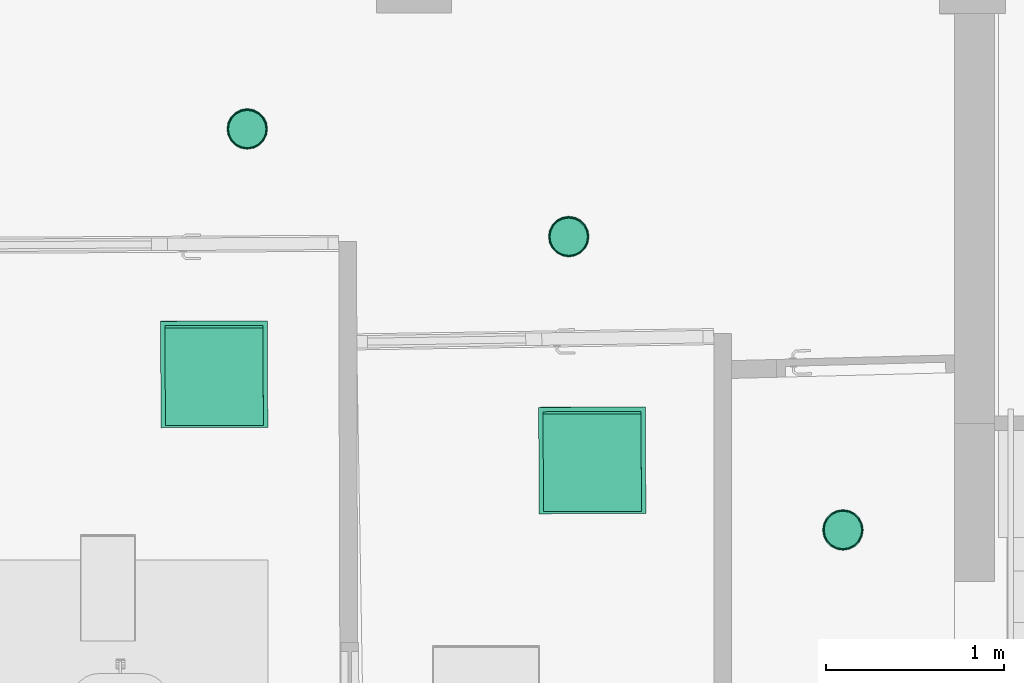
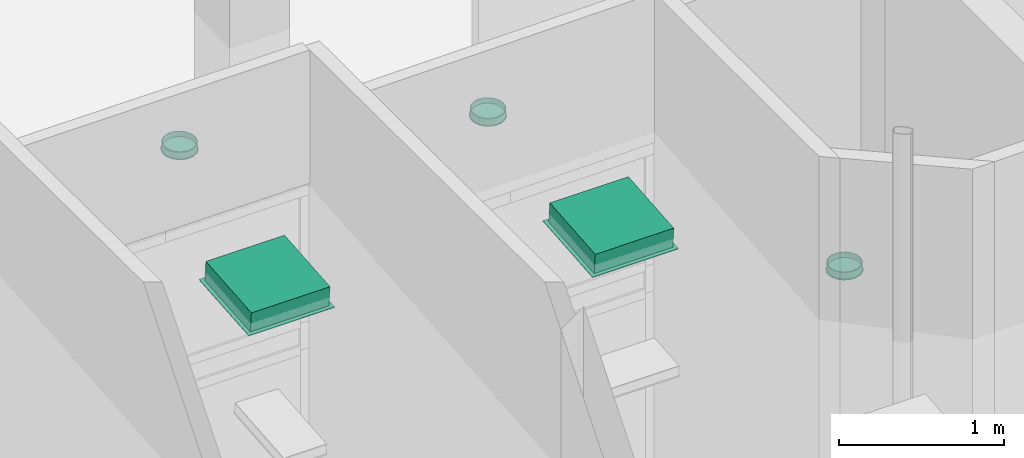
# One storey, part 72 of 128: 3 flow terminals, 2 flow controllers.
"""IFC2X3 building model written with IfcOpenShell, lengths in metres."""

from ifc_helpers import new_model, entity, si_unit, converted_unit, derived_unit, direction, frame, origin, place, context, subcontext, project, spatial, faceted_brep, source, transform, mapped, material, material_list, type_object, type_shapes, element, save


model = new_model("IFC2X3")

# Units and contexts
model_context = context("Model", 3, precision=1e-05, world=origin(), true_north=direction((6.123031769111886e-17, 1.0)))
body_context = subcontext(model_context, "Body", "Model", "MODEL_VIEW")
ifc_project = project(units=[si_unit("LENGTHUNIT", "METRE"), si_unit("AREAUNIT", "SQUARE_METRE"), converted_unit("PLANEANGLEUNIT", "DEGREE", entity("IfcPlaneAngleMeasure", 0.017453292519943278), si_unit("PLANEANGLEUNIT", "RADIAN"), dimensions=[0, 0, 0, 0, 0, 0, 0]), derived_unit("THERMALTRANSMITTANCEUNIT", [(si_unit("MASSUNIT", "GRAM", prefix="KILO"), 1), (si_unit("THERMODYNAMICTEMPERATUREUNIT", "KELVIN"), -1), (si_unit("TIMEUNIT", "SECOND"), -3)])], contexts=[model_context])

# Site, building, storey
site_placement = place(None, origin())
site = spatial("IfcSite", under=ifc_project, at=site_placement, Name="Default", CompositionType="ELEMENT")
building_placement = place(site_placement, origin())
building = spatial("IfcBuilding", under=site, at=building_placement, CompositionType="ELEMENT")
storey_placement = place(building_placement, origin())
storey = spatial("IfcBuildingStorey", under=building, at=storey_placement, Name="00_RDC CAF", CompositionType="ELEMENT", Elevation=2.4982504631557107e-13)

# Flow terminals
ifc_material_1 = material(Name="ARC - Eq Elec - Blanc")
light_fixture_type = type_object("IfcLightFixtureType", Name="Eq_Elec_Luminaire_Circulaire_LED_Encastre:Eq_Elec_Luminaire_Circulaire_LED_Encastre_D220x50mm", PredefinedType="NOTDEFINED", material=ifc_material_1)
shared_shape_1 = source(origin(), body_context, "Body", "Brep", [
    faceted_brep([(0.0, 0.10499999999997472, -0.010000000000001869), (0.02717599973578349, 0.10142221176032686, -0.010000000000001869), (0.05250000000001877, 0.09093266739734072, -0.010000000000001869), (0.07424621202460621, 0.07424621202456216, -0.010000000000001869), (0.09093266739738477, 0.05249999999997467, -0.010000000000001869), (0.10142221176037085, 0.027175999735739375, -0.010000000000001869), (0.10500000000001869, 0.0, -0.010000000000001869), (0.10142221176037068, -0.02717599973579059, -0.010000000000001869), (0.09093266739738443, -0.05250000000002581, -0.010000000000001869), (0.07424621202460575, -0.07424621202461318, -0.010000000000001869), (0.0525000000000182, -0.09093266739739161, -0.010000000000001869), (0.02717599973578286, -0.10142221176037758, -0.010000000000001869), (0.0, -0.10500000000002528, -0.010000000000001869), (-0.027175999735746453, -0.10142221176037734, -0.010000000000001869), (-0.052499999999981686, -0.09093266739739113, -0.010000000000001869), (-0.07424621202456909, -0.0742462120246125, -0.010000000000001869), (-0.09093266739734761, -0.052500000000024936, -0.010000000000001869), (-0.10142221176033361, -0.027175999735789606, -0.010000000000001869), (-0.10499999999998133, 0.0, -0.010000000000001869), (-0.1014222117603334, 0.027175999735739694, -0.010000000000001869), (-0.09093266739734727, 0.05249999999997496, -0.010000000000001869), (-0.07424621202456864, 0.07424621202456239, -0.010000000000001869), (-0.052499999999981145, 0.09093266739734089, -0.010000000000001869), (-0.027175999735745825, 0.10142221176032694, -0.010000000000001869), (0.02717599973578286, -0.10142221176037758, 0.0), (0.0525000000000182, -0.09093266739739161, 0.0), (0.07424621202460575, -0.07424621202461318, 0.0), (0.09093266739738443, -0.05250000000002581, 0.0), (0.10142221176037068, -0.02717599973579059, 0.0), (0.10500000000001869, 0.0, 0.0), (0.10142221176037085, 0.027175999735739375, 0.0), (0.09093266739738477, 0.05249999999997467, 0.0), (0.07424621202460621, 0.07424621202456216, 0.0), (0.05250000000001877, 0.09093266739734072, 0.0), (0.02717599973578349, 0.10142221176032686, 0.0), (0.0, 0.10499999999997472, 0.0), (-0.027175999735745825, 0.10142221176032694, 0.0), (-0.052499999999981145, 0.09093266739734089, 0.0), (-0.07424621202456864, 0.07424621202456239, 0.0), (-0.09093266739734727, 0.05249999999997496, 0.0), (-0.1014222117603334, 0.027175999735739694, 0.0), (-0.10499999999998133, 0.0, 0.0), (-0.10142221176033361, -0.027175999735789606, 0.0), (-0.09093266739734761, -0.052500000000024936, 0.0), (-0.07424621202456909, -0.0742462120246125, 0.0), (-0.052499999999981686, -0.09093266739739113, 0.0), (-0.027175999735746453, -0.10142221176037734, 0.0), (0.0, -0.10500000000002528, 0.0)], [[[0, 1, 2, 3, 4, 5, 6, 7, 8, 9, 10, 11, 12, 13, 14, 15, 16, 17, 18, 19, 20, 21, 22, 23]], [[24, 25, 26, 27, 28, 29, 30, 31, 32, 33, 34, 35, 36, 37, 38, 39, 40, 41, 42, 43, 44, 45, 46, 47]], [[17, 42, 41, 18]], [[16, 43, 42, 17]], [[45, 44, 15, 14]], [[16, 15, 44, 43]], [[46, 45, 14, 13]], [[47, 46, 13, 12]], [[11, 24, 47, 12]], [[10, 25, 24, 11]], [[27, 26, 9, 8]], [[10, 9, 26, 25]], [[28, 27, 8, 7]], [[29, 28, 7, 6]], [[5, 30, 29, 6]], [[4, 31, 30, 5]], [[33, 32, 3, 2]], [[4, 3, 32, 31]], [[34, 33, 2, 1]], [[35, 34, 1, 0]], [[23, 36, 35, 0]], [[22, 37, 36, 23]], [[19, 18, 41, 40]], [[21, 38, 37, 22]], [[39, 20, 19, 40]], [[39, 38, 21, 20]]]),
    faceted_brep([(-0.10999999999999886, 0.0, 0.0), (-0.10999999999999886, 0.0, -0.05000000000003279), (-0.10461621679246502, -0.033991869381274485, -0.05000000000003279), (-0.10461621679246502, -0.033991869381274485, 0.0), (-0.08899186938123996, -0.06465637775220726, 0.0), (-0.08899186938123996, -0.06465637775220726, -0.05000000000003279), (-0.06465637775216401, -0.08899186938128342, -0.05000000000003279), (-0.06465637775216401, -0.08899186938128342, 0.0), (-0.03399186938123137, -0.10461621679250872, -0.05000000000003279), (-0.03399186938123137, -0.10461621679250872, 0.0), (0.0, -0.11000000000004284, -0.05000000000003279), (0.0, -0.11000000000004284, 0.0), (0.033991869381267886, -0.10461621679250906, -0.05000000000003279), (0.06465637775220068, -0.08899186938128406, -0.05000000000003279), (0.06465637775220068, -0.08899186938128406, 0.0), (0.033991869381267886, -0.10461621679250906, 0.0), (0.10461621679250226, -0.03399186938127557, 0.0), (0.08899186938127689, -0.06465637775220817, 0.0), (0.08899186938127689, -0.06465637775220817, -0.05000000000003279), (0.10461621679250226, -0.03399186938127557, -0.05000000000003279), (0.11000000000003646, 0.0, 0.0), (0.11000000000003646, 0.0, -0.05000000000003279), (-0.1093714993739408, -0.03553695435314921, 0.0), (-0.1093714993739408, -0.03553695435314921, 0.004999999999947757), (-0.11135404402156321, -0.023019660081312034, 0.004999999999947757), (-0.11499999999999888, 0.0, 0.004999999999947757), (-0.11499999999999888, 0.0, 0.0), (-0.11218574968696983, -0.017768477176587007, 0.0), (-0.09303695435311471, -0.0675953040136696, 0.0), (-0.08031612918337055, -0.08031612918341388, 0.0), (-0.06759530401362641, -0.09303695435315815, 0.0), (-0.06759530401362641, -0.09303695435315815, 0.004999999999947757), (-0.08031612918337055, -0.08031612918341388, 0.004999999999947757), (-0.09303695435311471, -0.0675953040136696, 0.004999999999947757), (0.10120422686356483, -0.05156612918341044, 0.004999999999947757), (0.09303695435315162, -0.06759530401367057, 0.004999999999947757), (0.09303695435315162, -0.06759530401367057, 0.0), (0.10120422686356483, -0.05156612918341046, 0.0), (0.10937149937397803, -0.035536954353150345, 0.0), (0.10937149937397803, -0.035536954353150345, 0.004999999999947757), (0.08031612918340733, -0.0803161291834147, 0.004999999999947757), (0.06759530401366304, -0.09303695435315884, 0.004999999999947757), (0.06759530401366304, -0.09303695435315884, 0.0), (0.08031612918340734, -0.08031612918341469, 0.0), (-0.10120422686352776, -0.0515661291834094, 0.0), (-0.10120422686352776, -0.0515661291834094, 0.004999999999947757), (-0.051566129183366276, -0.10120422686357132, 0.0), (-0.03553695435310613, -0.1093714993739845, 0.0), (-0.03553695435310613, -0.1093714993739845, 0.004999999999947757), (-0.051566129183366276, -0.10120422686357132, 0.004999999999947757), (0.11500000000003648, 0.0, 0.004999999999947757), (0.11135404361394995, -0.02301966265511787, 0.004999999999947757), (0.11218574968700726, -0.01776847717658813, 0.0), (0.11500000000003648, 0.0, 0.0), (0.017768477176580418, -0.11218574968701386, 0.0), (0.0355369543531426, -0.10937149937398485, 0.0), (0.0355369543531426, -0.10937149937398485, 0.004999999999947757), (0.017768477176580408, -0.11218574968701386, 0.004999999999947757), (0.0, -0.11500000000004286, 0.004999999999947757), (0.0, -0.11500000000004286, 0.0), (-0.017768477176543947, -0.11218574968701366, 0.004999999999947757), (-0.017768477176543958, -0.11218574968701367, 0.0), (0.051566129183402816, -0.10120422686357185, 0.0), (0.051566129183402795, -0.10120422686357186, 0.004999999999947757), (-0.09986093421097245, -0.0324467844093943, -0.05000000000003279), (-0.1049999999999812, 0.0, -0.05000000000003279), (-0.1049999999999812, 0.0, 0.004999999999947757), (-0.09986093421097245, -0.0324467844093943, 0.004999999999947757), (-0.061717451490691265, -0.08494678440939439, -0.05000000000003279), (-0.08494678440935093, -0.06171745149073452, -0.05000000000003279), (-0.08494678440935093, -0.06171745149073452, 0.004999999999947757), (-0.061717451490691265, -0.08494678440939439, 0.004999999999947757), (-0.03244678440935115, -0.09986093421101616, 0.004999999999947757), (-0.03244678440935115, -0.09986093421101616, -0.05000000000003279), (0.0, -0.10500000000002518, 0.004999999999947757), (0.0, -0.10500000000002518, -0.05000000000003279), (0.06171745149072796, -0.08494678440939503, -0.05000000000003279), (0.03244678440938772, -0.0998609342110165, -0.05000000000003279), (0.03244678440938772, -0.0998609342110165, 0.004999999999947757), (0.06171745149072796, -0.08494678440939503, 0.004999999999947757), (0.09986093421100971, -0.03244678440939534, -0.05000000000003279), (0.0849467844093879, -0.06171745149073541, -0.05000000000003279), (0.0849467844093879, -0.06171745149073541, 0.004999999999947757), (0.09986093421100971, -0.03244678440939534, 0.004999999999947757), (0.1050000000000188, 0.0, -0.05000000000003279), (0.1050000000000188, 0.0, 0.004999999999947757), (0.10461621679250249, 0.03399186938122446, -0.05000000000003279), (0.10461621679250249, 0.03399186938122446, 0.0), (0.08899186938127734, 0.06465637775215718, 0.0), (0.08899186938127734, 0.06465637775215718, -0.05000000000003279), (0.0646563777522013, 0.08899186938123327, -0.05000000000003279), (0.0646563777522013, 0.08899186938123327, 0.0), (0.03399186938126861, 0.10461621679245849, -0.05000000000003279), (0.03399186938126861, 0.10461621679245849, 0.0), (0.0, 0.10999999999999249, -0.05000000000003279), (0.0, 0.10999999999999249, 0.0), (-0.033991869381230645, 0.1046162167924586, -0.05000000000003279), (-0.0646563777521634, 0.0889918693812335, -0.05000000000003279), (-0.0646563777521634, 0.0889918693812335, 0.0), (-0.033991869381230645, 0.1046162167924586, 0.0), (-0.10461621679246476, 0.03399186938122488, 0.0), (-0.0889918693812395, 0.06465637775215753, 0.0), (-0.0889918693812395, 0.06465637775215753, -0.05000000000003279), (-0.10461621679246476, 0.03399186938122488, -0.05000000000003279), (0.09986093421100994, 0.03244678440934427, -0.05000000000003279), (0.08494678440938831, 0.061717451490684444, -0.05000000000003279), (0.06171745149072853, 0.08494678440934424, -0.05000000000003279), (0.03244678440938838, 0.0998609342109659, -0.05000000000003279), (0.0, 0.1049999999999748, -0.05000000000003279), (-0.032446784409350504, 0.09986093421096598, -0.05000000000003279), (-0.061717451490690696, 0.0849467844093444, -0.05000000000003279), (-0.0849467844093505, 0.06171745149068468, -0.05000000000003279), (-0.0998609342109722, 0.03244678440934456, -0.05000000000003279), (0.10937149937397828, 0.035536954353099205, 0.0), (0.10937149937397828, 0.035536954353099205, 0.004999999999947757), (0.11135404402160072, 0.023019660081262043, 0.004999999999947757), (0.11218574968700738, 0.017768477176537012, 0.0), (0.0930369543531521, 0.06759530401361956, 0.0), (0.0803161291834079, 0.0803161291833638, 0.0), (0.06759530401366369, 0.093036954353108, 0.0), (0.06759530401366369, 0.093036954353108, 0.004999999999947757), (0.0803161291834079, 0.0803161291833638, 0.004999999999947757), (0.0930369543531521, 0.06759530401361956, 0.004999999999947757), (-0.1012042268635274, 0.05156612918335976, 0.004999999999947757), (-0.09303695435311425, 0.06759530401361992, 0.004999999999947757), (-0.09303695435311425, 0.06759530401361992, 0.0), (-0.1012042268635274, 0.05156612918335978, 0.0), (-0.10937149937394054, 0.03553695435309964, 0.0), (-0.10937149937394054, 0.03553695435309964, 0.004999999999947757), (-0.08031612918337, 0.0803161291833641, 0.004999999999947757), (-0.06759530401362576, 0.09303695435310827, 0.004999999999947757), (-0.06759530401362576, 0.09303695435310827, 0.0), (-0.08031612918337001, 0.08031612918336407, 0.0), (0.1012042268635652, 0.05156612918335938, 0.0), (0.1012042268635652, 0.05156612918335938, 0.004999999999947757), (0.051566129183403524, 0.10120422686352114, 0.0), (0.03553695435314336, 0.10937149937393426, 0.0), (0.03553695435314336, 0.10937149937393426, 0.004999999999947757), (0.051566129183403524, 0.10120422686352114, 0.004999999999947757), (-0.11135404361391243, 0.023019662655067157, 0.004999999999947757), (-0.11218574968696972, 0.017768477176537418, 0.0), (-0.0177684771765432, 0.11218574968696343, 0.0), (-0.035536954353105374, 0.1093714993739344, 0.0), (-0.035536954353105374, 0.1093714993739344, 0.004999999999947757), (-0.017768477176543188, 0.11218574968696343, 0.004999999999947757), (0.0, 0.1149999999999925, 0.004999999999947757), (0.0, 0.1149999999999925, 0.0), (0.017768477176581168, 0.11218574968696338, 0.004999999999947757), (0.017768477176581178, 0.11218574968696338, 0.0), (-0.05156612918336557, 0.10120422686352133, 0.0), (-0.05156612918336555, 0.10120422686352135, 0.004999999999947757), (0.09986093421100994, 0.03244678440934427, 0.004999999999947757), (0.08494678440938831, 0.061717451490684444, 0.004999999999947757), (0.06171745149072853, 0.08494678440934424, 0.004999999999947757), (0.03244678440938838, 0.0998609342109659, 0.004999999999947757), (0.0, 0.1049999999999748, 0.004999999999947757), (-0.032446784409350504, 0.09986093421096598, 0.004999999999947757), (-0.061717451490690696, 0.0849467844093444, 0.004999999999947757), (-0.0849467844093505, 0.06171745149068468, 0.004999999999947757), (-0.0998609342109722, 0.03244678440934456, 0.004999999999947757)], [[[0, 1, 2, 3]], [[4, 5, 6, 7]], [[2, 5, 4, 3]], [[6, 8, 9, 7]], [[9, 8, 10, 11]], [[12, 13, 14, 15]], [[16, 17, 18, 19]], [[18, 17, 14, 13]], [[20, 16, 19, 21]], [[15, 11, 10, 12]], [[22, 23, 24, 25, 26, 27]], [[28, 29, 30, 31, 32, 33]], [[34, 35, 36, 37, 38, 39]], [[40, 41, 42, 43, 36, 35]], [[22, 44, 28, 33, 45, 23]], [[30, 46, 47, 48, 49, 31]], [[50, 51, 39, 38, 52, 53]], [[54, 55, 56, 57, 58, 59]], [[60, 48, 47, 61, 59, 58]], [[55, 62, 42, 41, 63, 56]], [[64, 65, 66, 67]], [[68, 69, 70, 71]], [[67, 70, 69, 64]], [[71, 72, 73, 68]], [[74, 75, 73, 72]], [[76, 77, 78, 79]], [[80, 81, 82, 83]], [[82, 81, 76, 79]], [[84, 80, 83, 85]], [[78, 77, 75, 74]], [[20, 21, 86, 87]], [[88, 89, 90, 91]], [[86, 89, 88, 87]], [[90, 92, 93, 91]], [[93, 92, 94, 95]], [[96, 97, 98, 99]], [[100, 101, 102, 103]], [[102, 101, 98, 97]], [[0, 100, 103, 1]], [[99, 95, 94, 96]], [[64, 69, 5]], [[5, 2, 64]], [[64, 2, 65]], [[6, 5, 69]], [[69, 68, 6]], [[68, 73, 6]], [[8, 6, 73]], [[73, 75, 8]], [[10, 8, 75]], [[10, 75, 77]], [[77, 12, 10]], [[77, 76, 12]], [[13, 12, 76]], [[81, 13, 76]], [[13, 81, 18]], [[80, 18, 81]], [[18, 80, 19]], [[84, 19, 80]], [[21, 19, 84]], [[104, 21, 84]], [[86, 21, 104]], [[104, 105, 86]], [[89, 86, 105]], [[106, 89, 105]], [[89, 106, 90]], [[92, 90, 106]], [[106, 107, 92]], [[92, 107, 94]], [[107, 108, 94]], [[94, 108, 96]], [[108, 109, 96]], [[97, 96, 109]], [[109, 110, 97]], [[102, 97, 110]], [[110, 111, 102]], [[102, 111, 103]], [[112, 103, 111]], [[103, 112, 1]], [[112, 65, 1]], [[1, 65, 2]], [[113, 114, 115, 50, 53, 116]], [[117, 118, 119, 120, 121, 122]], [[123, 124, 125, 126, 127, 128]], [[129, 130, 131, 132, 125, 124]], [[113, 133, 117, 122, 134, 114]], [[119, 135, 136, 137, 138, 120]], [[25, 139, 128, 127, 140, 26]], [[141, 142, 143, 144, 145, 146]], [[147, 137, 136, 148, 146, 145]], [[142, 149, 131, 130, 150, 143]], [[33, 70, 67]], [[70, 33, 32]], [[67, 45, 33]], [[70, 32, 31]], [[31, 71, 70]], [[31, 72, 71]], [[72, 31, 49]], [[72, 49, 48]], [[48, 74, 72]], [[74, 48, 60]], [[74, 60, 58]], [[78, 74, 58]], [[78, 58, 57]], [[78, 57, 56]], [[56, 79, 78]], [[79, 56, 63]], [[79, 63, 41]], [[79, 41, 82]], [[82, 41, 40]], [[82, 40, 35]], [[82, 35, 83]], [[83, 35, 34]], [[83, 34, 39]], [[83, 39, 85]], [[85, 39, 51]], [[85, 51, 50]], [[85, 50, 151]], [[151, 50, 115]], [[151, 115, 114]], [[114, 152, 151]], [[152, 114, 134]], [[152, 134, 122]], [[152, 122, 153]], [[153, 122, 121]], [[153, 121, 120]], [[153, 120, 138]], [[153, 138, 137]], [[137, 154, 153]], [[154, 137, 147]], [[154, 147, 145]], [[145, 155, 154]], [[155, 145, 144]], [[155, 144, 143]], [[143, 156, 155]], [[156, 143, 150]], [[156, 150, 130]], [[130, 157, 156]], [[157, 130, 129]], [[157, 129, 124]], [[124, 158, 157]], [[158, 124, 123]], [[158, 123, 128]], [[158, 128, 159]], [[159, 128, 139]], [[159, 139, 25]], [[25, 66, 159]], [[66, 25, 24]], [[66, 24, 23]], [[23, 67, 66]], [[67, 23, 45]], [[104, 84, 85, 151]], [[106, 105, 152, 153]], [[151, 152, 105, 104]], [[153, 154, 107, 106]], [[155, 108, 107, 154]], [[110, 109, 156, 157]], [[112, 111, 158, 159]], [[158, 111, 110, 157]], [[65, 112, 159, 66]], [[156, 109, 108, 155]], [[3, 4, 28]], [[3, 28, 44]], [[3, 44, 22]], [[3, 22, 0]], [[4, 29, 28]], [[4, 30, 29]], [[4, 7, 30]], [[7, 9, 30]], [[9, 46, 30]], [[9, 47, 46]], [[9, 11, 47]], [[11, 61, 47]], [[11, 59, 61]], [[59, 11, 15]], [[15, 54, 59]], [[15, 55, 54]], [[15, 14, 55]], [[14, 62, 55]], [[14, 42, 62]], [[17, 42, 14]], [[17, 43, 42]], [[17, 36, 43]], [[16, 36, 17]], [[16, 37, 36]], [[16, 38, 37]], [[20, 38, 16]], [[20, 52, 38]], [[20, 53, 52]], [[87, 53, 20]], [[87, 116, 53]], [[87, 113, 116]], [[87, 88, 113]], [[88, 133, 113]], [[88, 117, 133]], [[91, 117, 88]], [[91, 118, 117]], [[91, 119, 118]], [[91, 135, 119]], [[91, 136, 135]], [[91, 93, 136]], [[93, 148, 136]], [[93, 146, 148]], [[93, 95, 146]], [[95, 141, 146]], [[95, 142, 141]], [[95, 99, 142]], [[99, 149, 142]], [[99, 131, 149]], [[99, 98, 131]], [[98, 132, 131]], [[98, 125, 132]], [[98, 101, 125]], [[101, 126, 125]], [[101, 127, 126]], [[100, 127, 101]], [[100, 0, 26]], [[100, 26, 140]], [[100, 140, 127]], [[0, 22, 27]], [[0, 27, 26]]]),
])
type_shapes(light_fixture_type, [shared_shape_1])
for number, where, z_axis, x_axis in (
    (1, (14.800101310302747, 135.6858264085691, 3.3159051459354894), (0.0, 0.029986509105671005, -0.9995503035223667), (1.0, 0.0, 0.0)),
    (2, (16.604878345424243, 135.0812865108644, 3.297768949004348), (0.0, 0.029986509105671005, -0.9995503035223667), (1.0, 0.0, 0.0)),
    (3, (18.1442332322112, 133.43448300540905, 2.619999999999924), (0.0, 0.0, -1.0), (1.0, 0.0, 0.0)),
):
    element("IfcFlowTerminal", number, at=place(storey_placement, frame(where, z_axis=z_axis, x_axis=x_axis)), inside=storey, type_object=light_fixture_type, material=ifc_material_1, Name="Eq_Elec_Luminaire_Circulaire_LED_Encastre:Eq_Elec_Luminaire_Circulaire_LED_Encastre_D220x50mm", ObjectType="Eq_Elec_Luminaire_Circulaire_LED_Encastre:Eq_Elec_Luminaire_Circulaire_LED_Encastre_D220x50mm", context=body_context, shape_type="MappedRepresentation", body=[
        mapped(shared_shape_1, transform((0.0, 0.0, 0.0), scale=1.0)),
    ])

# Flow controllers
ifc_material_2 = material(Name="ARC - Eq CVC - Blanc")
ifc_material_3 = material(Name="<Unnamed>")
ifc_material_list = material_list([ifc_material_2, ifc_material_3])
air_terminal_box_type = type_object("IfcAirTerminalBoxType", Name="Eq_CVC_Bouche_circulaire_soufflage_base carre:Eq_CVC_Bouche_circulaire_soufflage_D350mm_base carre_600x600mm", PredefinedType="NOTDEFINED", material=ifc_material_list)
shared_shape_2 = source(origin(), body_context, "Body", "Brep", [
    faceted_brep([(-0.27499999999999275, 0.27499999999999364, -0.050000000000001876), (-0.10825317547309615, 0.06250000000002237, -0.050000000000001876), (-0.12074072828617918, 0.03235238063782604, -0.050000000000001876), (-0.08838834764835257, 0.0883883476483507, -0.050000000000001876), (-0.124999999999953, 0.0, -0.050000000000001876), (-0.06250000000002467, 0.10825317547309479, -0.050000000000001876), (-0.032352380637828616, 0.12074072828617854, -0.050000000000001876), (0.0, 0.12500000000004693, -0.050000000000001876), (0.2750000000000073, 0.27499999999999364, -0.050000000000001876), (-0.27499999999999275, -0.27500000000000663, -0.050000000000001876), (0.0323523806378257, 0.12074072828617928, -0.050000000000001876), (0.06250000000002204, 0.10825317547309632, -0.050000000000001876), (0.08838834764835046, 0.08838834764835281, -0.050000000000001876), (0.10825317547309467, 0.06250000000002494, -0.050000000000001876), (0.12074072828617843, 0.03235238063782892, -0.050000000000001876), (0.12500000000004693, 0.0, -0.050000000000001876), (0.2750000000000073, -0.27500000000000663, -0.050000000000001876), (0.12074072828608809, -0.03235238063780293, -0.050000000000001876), (0.10825317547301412, -0.06249999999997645, -0.050000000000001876), (0.08838834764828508, -0.08838834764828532, -0.050000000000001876), (0.06249999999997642, -0.10825317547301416, -0.050000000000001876), (0.03235238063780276, -0.12074072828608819, -0.050000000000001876), (0.0, -0.12499999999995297, -0.050000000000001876), (-0.12074072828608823, -0.032352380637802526, -0.050000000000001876), (-0.10825317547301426, -0.06249999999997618, -0.050000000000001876), (-0.08838834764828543, -0.08838834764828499, -0.050000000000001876), (-0.062499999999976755, -0.10825317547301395, -0.050000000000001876), (-0.03235238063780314, -0.12074072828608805, -0.050000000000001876), (0.2750000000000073, 0.27499999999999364, 0.0), (0.15155444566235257, 0.08750000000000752, 0.0), (0.1690370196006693, 0.04529333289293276, 0.0), (0.12374368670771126, 0.12374368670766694, 0.0), (0.17499999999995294, 0.0, 0.0), (0.08750000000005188, 0.15155444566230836, 0.0), (0.045293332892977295, 0.16903701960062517, 0.0), (0.0, 0.17500000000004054, 0.0), (-0.27499999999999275, 0.27499999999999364, 0.0), (0.2750000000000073, -0.27500000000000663, 0.0), (-0.045293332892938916, 0.16903701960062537, 0.0), (-0.08750000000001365, 0.15155444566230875, 0.0), (-0.12374368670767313, 0.1237436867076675, 0.0), (-0.1515544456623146, 0.08750000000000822, 0.0), (-0.1690370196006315, 0.04529333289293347, 0.0), (-0.17500000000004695, 0.0, 0.0), (-0.27499999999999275, -0.27500000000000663, 0.0), (-0.16903701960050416, -0.045293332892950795, 0.0), (-0.15155444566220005, -0.08749999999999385, 0.0), (-0.12374368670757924, -0.12374368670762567, 0.0), (-0.08749999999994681, -0.15155444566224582, 0.0), (-0.04529333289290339, -0.16903701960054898, 0.0), (0.0, -0.17499999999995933, 0.0), (0.1690370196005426, -0.04529333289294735, 0.0), (0.15155444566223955, -0.08749999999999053, 0.0), (0.12374368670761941, -0.1237436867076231, 0.0), (0.08749999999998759, -0.151554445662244, 0.0), (0.04529333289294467, -0.16903701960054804, 0.0)], [[[0, 1, 2]], [[1, 0, 3]], [[0, 2, 4]], [[5, 3, 0]], [[6, 5, 0]], [[7, 6, 0]], [[0, 8, 7]], [[4, 9, 0]], [[10, 7, 8]], [[11, 10, 8]], [[12, 11, 8]], [[8, 13, 12]], [[13, 8, 14]], [[15, 14, 8]], [[8, 16, 15]], [[17, 15, 16]], [[18, 17, 16]], [[16, 19, 18]], [[19, 16, 20]], [[21, 20, 16]], [[22, 21, 16]], [[22, 16, 9]], [[9, 4, 23]], [[9, 23, 24]], [[24, 25, 9]], [[25, 26, 9]], [[26, 27, 9]], [[9, 27, 22]], [[28, 29, 30]], [[29, 28, 31]], [[28, 30, 32]], [[33, 31, 28]], [[34, 33, 28]], [[35, 34, 28]], [[28, 36, 35]], [[32, 37, 28]], [[38, 35, 36]], [[39, 38, 36]], [[40, 39, 36]], [[36, 41, 40]], [[41, 36, 42]], [[43, 42, 36]], [[36, 44, 43]], [[45, 43, 44]], [[46, 45, 44]], [[44, 47, 46]], [[47, 44, 48]], [[49, 48, 44]], [[50, 49, 44]], [[50, 44, 37]], [[37, 32, 51]], [[37, 51, 52]], [[52, 53, 37]], [[53, 54, 37]], [[54, 55, 37]], [[37, 55, 50]], [[36, 28, 8, 0]], [[44, 36, 0, 9]], [[37, 44, 9, 16]], [[28, 37, 16, 8]], [[47, 25, 24, 46]], [[46, 24, 23, 45]], [[27, 26, 48, 49]], [[27, 49, 50, 22]], [[48, 26, 25, 47]], [[45, 23, 4, 43]], [[54, 53, 19, 20]], [[55, 54, 20, 21]], [[51, 32, 15, 17]], [[52, 51, 17, 18]], [[53, 52, 18, 19]], [[55, 21, 22, 50]], [[31, 12, 13, 29]], [[29, 13, 14, 30]], [[10, 11, 33, 34]], [[10, 34, 35, 7]], [[33, 11, 12, 31]], [[30, 14, 15, 32]], [[39, 40, 3, 5]], [[38, 39, 5, 6]], [[42, 43, 4, 2]], [[41, 42, 2, 1]], [[40, 41, 1, 3]], [[38, 6, 7, 35]]]),
    faceted_brep([(0.30000000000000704, 0.29999999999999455, 0.0), (0.30000000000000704, 0.2999999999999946, 0.0049999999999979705), (0.30000000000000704, -0.30000000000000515, 0.0049999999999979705), (0.30000000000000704, -0.30000000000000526, 0.0), (-0.29999999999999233, -0.30000000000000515, 0.0049999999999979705), (-0.29999999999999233, -0.30000000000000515, 0.0), (-0.29999999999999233, 0.2999999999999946, 0.0049999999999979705), (-0.29999999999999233, 0.2999999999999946, 0.0), (0.2750000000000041, -0.27500000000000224, 0.0049999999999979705), (-0.2749999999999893, -0.27500000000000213, 0.0049999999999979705), (-0.2749999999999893, 0.27499999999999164, 0.0049999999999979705), (0.2750000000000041, 0.27499999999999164, 0.0049999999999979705), (0.2750000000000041, 0.27499999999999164, 0.0), (0.2750000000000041, -0.2750000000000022, 0.0), (-0.2749999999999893, -0.27500000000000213, 0.0), (-0.2749999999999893, 0.27499999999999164, 0.0)], [[[0, 1, 2, 3]], [[3, 2, 4, 5]], [[5, 4, 6, 7]], [[7, 6, 1, 0]], [[1, 6, 4, 2], [8, 9, 10, 11]], [[11, 12, 13, 8]], [[8, 13, 14, 9]], [[9, 14, 15, 10]], [[3, 5, 7, 0], [12, 15, 14, 13]], [[10, 15, 12, 11]]]),
    faceted_brep([(-0.27499999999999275, -0.27500000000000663, -0.15000000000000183), (-0.27499999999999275, 0.27499999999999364, -0.15000000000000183), (0.2750000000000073, 0.27499999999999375, -0.15000000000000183), (0.2750000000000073, -0.27500000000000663, -0.15000000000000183), (-0.27499999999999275, -0.27500000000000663, -0.05000000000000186), (0.2750000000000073, -0.27500000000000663, -0.05000000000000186), (0.2750000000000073, 0.27499999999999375, -0.05000000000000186), (-0.27499999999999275, 0.27499999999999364, -0.05000000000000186)], [[[0, 1, 2, 3]], [[4, 5, 6, 7]], [[5, 4, 0, 3]], [[6, 5, 3, 2]], [[7, 6, 2, 1]], [[4, 7, 1, 0]]]),
])
type_shapes(air_terminal_box_type, [shared_shape_2])
for number, where, z_axis, x_axis, name in (
    (4, (14.614536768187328, 134.30796638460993, 3.146467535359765), (0.0, 0.0896376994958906, -0.9959744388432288), (0.999994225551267, 0.003384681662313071, 0.00030462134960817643), "Eq_CVC_Bouche_circulaire_soufflage_base carre:Eq_CVC_Bouche_circulaire_soufflage_D350mm_base carre_600x600mm"),
    (5, (16.736862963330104, 133.82478080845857, 3.1283395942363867), (0.0, 0.0896376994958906, -0.9959744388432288), (0.002637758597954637, -0.9959709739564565, -0.08963738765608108), "Eq_CVC_Bouche_circulaire_soufflage_base carre:Eq_CVC_Bouche_circulaire_soufflage_D350mm_base carre_600x600mm"),
):
    element("IfcFlowController", number, at=place(storey_placement, frame(where, z_axis=z_axis, x_axis=x_axis)), inside=storey, type_object=air_terminal_box_type, material=ifc_material_list, Name=name, ObjectType="Eq_CVC_Bouche_circulaire_soufflage_base carre:Eq_CVC_Bouche_circulaire_soufflage_D350mm_base carre_600x600mm", context=body_context, shape_type="MappedRepresentation", body=[
        mapped(shared_shape_2, transform((0.0, 0.0, 0.0), scale=1.0)),
    ])

save(model, "model.ifc")
